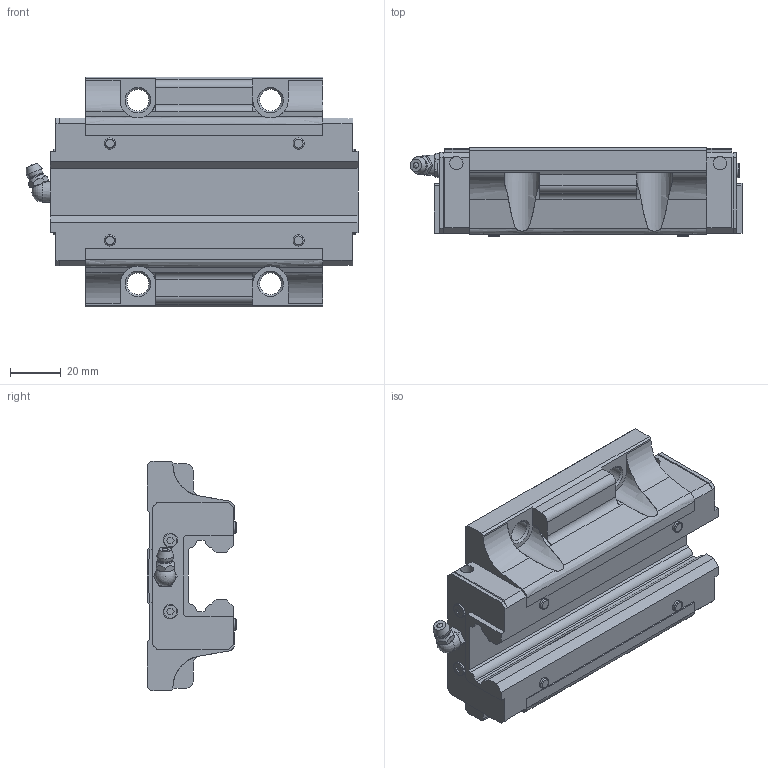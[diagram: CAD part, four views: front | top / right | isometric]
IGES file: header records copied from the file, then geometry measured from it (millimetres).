
Start section: Data from Parasolid IGES Translator 26.0.171, Copyright(c) 2006 Siemens PLM Software. All Rights Reserved.
Global section: file name: HSR30LC1SS(GK) BLOCK(1B-M6F).igs; native system: By Siemens PLM Incorporated; preprocessor: XPlus GENERIC/IGES 26.0.171; author: Noname; organization: Noname; date: 20240521.045849; units: millimetre
Bounding box: 130.2 x 35 x 90 mm (x, y, z)
Surface area: 38240.6 mm2 (no closed solid volume)
Topology: 0 solids, 0 shells, 269 faces, 1464 edges, 1415 vertices
Faces by surface type: extrusion 184, revolution 85
